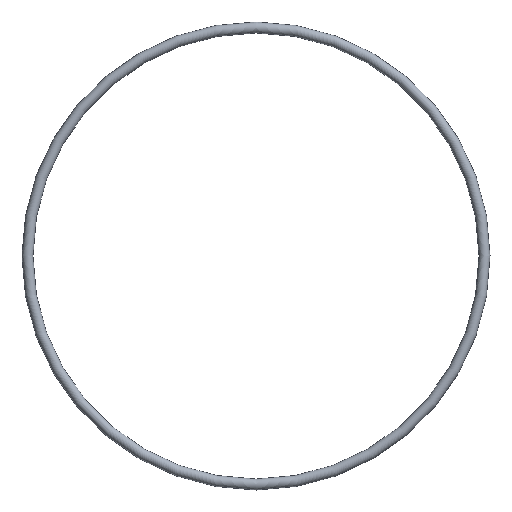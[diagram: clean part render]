
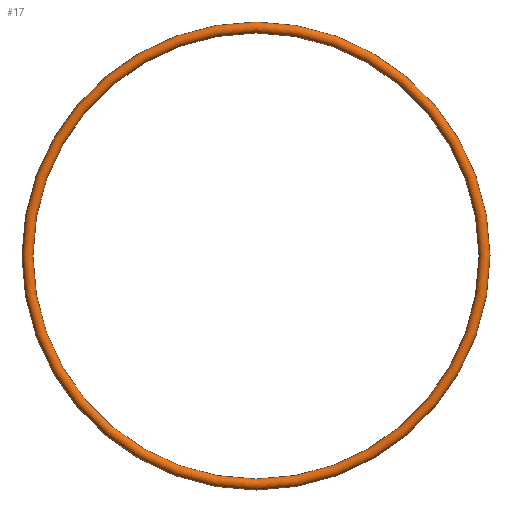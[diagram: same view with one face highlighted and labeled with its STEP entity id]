
A CAD part, left-side view. The second image highlights one B-rep face of the part: STEP entity #17.
In plain terms, the highlighted toroidal (fillet/blend) face has major radius 62.5 mm and minor radius 1.5 mm.
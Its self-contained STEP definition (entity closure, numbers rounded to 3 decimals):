
#17 = ADVANCED_FACE('',(#18),#31,.T.);
#18 = FACE_BOUND('',#19,.T.);
#19 = EDGE_LOOP('',(#20,#49,#71,#72));
#20 = ORIENTED_EDGE('',*,*,#21,.F.);
#21 = EDGE_CURVE('',#22,#22,#24,.T.);
#22 = VERTEX_POINT('',#23);
#23 = CARTESIAN_POINT('',(450.,0.,64.));
#24 = SEAM_CURVE('',#25,(#30,#42),.PCURVE_S1.);
#25 = CIRCLE('',#26,64.);
#26 = AXIS2_PLACEMENT_3D('',#27,#28,#29);
#27 = CARTESIAN_POINT('',(450.,0.,0.));
#28 = DIRECTION('',(1.,0.,0.));
#29 = DIRECTION('',(-0.,0.,1.));
#30 = PCURVE('',#31,#36);
#31 = TOROIDAL_SURFACE('',#32,62.5,1.5);
#32 = AXIS2_PLACEMENT_3D('',#33,#34,#35);
#33 = CARTESIAN_POINT('',(450.,0.,0.));
#34 = DIRECTION('',(1.,0.,0.));
#35 = DIRECTION('',(-0.,0.,1.));
#36 = DEFINITIONAL_REPRESENTATION('',(#37),#41);
#37 = LINE('',#38,#39);
#38 = CARTESIAN_POINT('',(0.,6.283));
#39 = VECTOR('',#40,1.);
#40 = DIRECTION('',(1.,0.));
#41 = ( GEOMETRIC_REPRESENTATION_CONTEXT(2) 
PARAMETRIC_REPRESENTATION_CONTEXT() REPRESENTATION_CONTEXT('2D SPACE',''
  ) );
#42 = PCURVE('',#31,#43);
#43 = DEFINITIONAL_REPRESENTATION('',(#44),#48);
#44 = LINE('',#45,#46);
#45 = CARTESIAN_POINT('',(0.,0.));
#46 = VECTOR('',#47,1.);
#47 = DIRECTION('',(1.,0.));
#48 = ( GEOMETRIC_REPRESENTATION_CONTEXT(2) 
PARAMETRIC_REPRESENTATION_CONTEXT() REPRESENTATION_CONTEXT('2D SPACE',''
  ) );
#49 = ORIENTED_EDGE('',*,*,#50,.F.);
#50 = EDGE_CURVE('',#22,#22,#51,.T.);
#51 = SEAM_CURVE('',#52,(#57,#64),.PCURVE_S1.);
#52 = CIRCLE('',#53,1.5);
#53 = AXIS2_PLACEMENT_3D('',#54,#55,#56);
#54 = CARTESIAN_POINT('',(450.,0.,62.5));
#55 = DIRECTION('',(0.,1.,0.));
#56 = DIRECTION('',(0.,0.,1.));
#57 = PCURVE('',#31,#58);
#58 = DEFINITIONAL_REPRESENTATION('',(#59),#63);
#59 = LINE('',#60,#61);
#60 = CARTESIAN_POINT('',(6.283,-0.));
#61 = VECTOR('',#62,1.);
#62 = DIRECTION('',(0.,1.));
#63 = ( GEOMETRIC_REPRESENTATION_CONTEXT(2) 
PARAMETRIC_REPRESENTATION_CONTEXT() REPRESENTATION_CONTEXT('2D SPACE',''
  ) );
#64 = PCURVE('',#31,#65);
#65 = DEFINITIONAL_REPRESENTATION('',(#66),#70);
#66 = LINE('',#67,#68);
#67 = CARTESIAN_POINT('',(0.,-0.));
#68 = VECTOR('',#69,1.);
#69 = DIRECTION('',(0.,1.));
#70 = ( GEOMETRIC_REPRESENTATION_CONTEXT(2) 
PARAMETRIC_REPRESENTATION_CONTEXT() REPRESENTATION_CONTEXT('2D SPACE',''
  ) );
#71 = ORIENTED_EDGE('',*,*,#21,.T.);
#72 = ORIENTED_EDGE('',*,*,#50,.T.);
